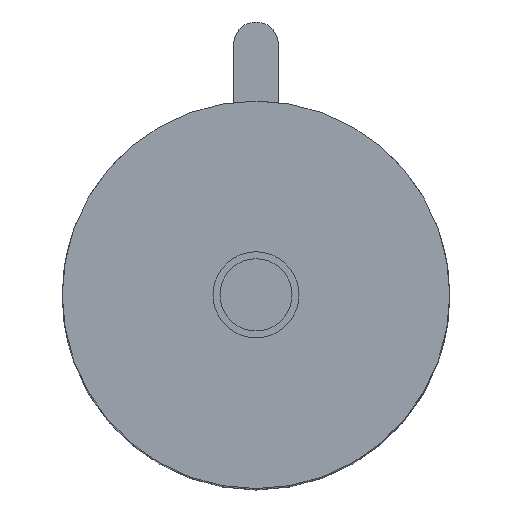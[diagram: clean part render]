
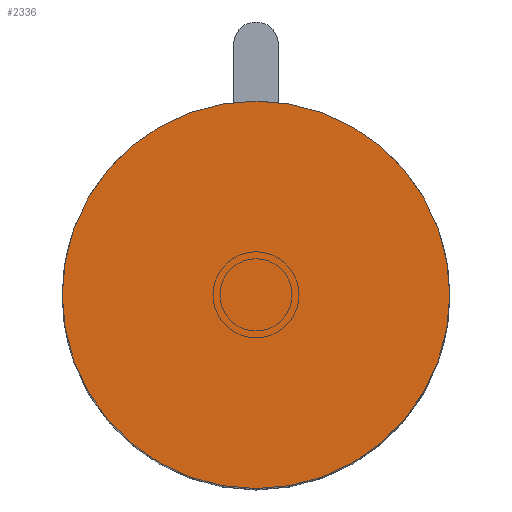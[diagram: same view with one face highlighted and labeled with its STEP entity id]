
A CAD part, top view. The second image highlights one B-rep face of the part: STEP entity #2336.
In plain terms, the highlighted planar face has unit normal (0, 0, 1).
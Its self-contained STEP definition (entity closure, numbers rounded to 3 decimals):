
#310 = ORIENTED_EDGE ( 'NONE', *, *, #312, .F. ) ;
#312 = EDGE_CURVE ( 'NONE', #1258, #1485, #3387, .T. ) ;
#392 = EDGE_CURVE ( 'NONE', #1485, #1258, #1231, .T. ) ;
#474 = DIRECTION ( 'NONE',  ( 1., 0., 0. ) ) ;
#504 = DIRECTION ( 'NONE',  ( 0., 0., -1. ) ) ;
#557 = AXIS2_PLACEMENT_3D ( 'NONE', #589, #504, #474 ) ;
#589 = CARTESIAN_POINT ( 'NONE',  ( 0., 0., 56. ) ) ;
#618 = AXIS2_PLACEMENT_3D ( 'NONE', #2750, #2714, #2617 ) ;
#1231 = CIRCLE ( 'NONE', #557, 27. ) ;
#1258 = VERTEX_POINT ( 'NONE', #2631 ) ;
#1485 = VERTEX_POINT ( 'NONE', #2647 ) ;
#1553 = EDGE_LOOP ( 'NONE', ( #1823, #310 ) ) ;
#1823 = ORIENTED_EDGE ( 'NONE', *, *, #392, .F. ) ;
#2336 = ADVANCED_FACE ( 'NONE', ( #3495 ), #3473, .T. ) ;
#2487 = AXIS2_PLACEMENT_3D ( 'NONE', #3289, #3280, #3278 ) ;
#2617 = DIRECTION ( 'NONE',  ( 1., 0., 0. ) ) ;
#2631 = CARTESIAN_POINT ( 'NONE',  ( -27., 0., 56. ) ) ;
#2647 = CARTESIAN_POINT ( 'NONE',  ( 27., 0., 56. ) ) ;
#2714 = DIRECTION ( 'NONE',  ( 0., 0., -1. ) ) ;
#2750 = CARTESIAN_POINT ( 'NONE',  ( 0., 0., 56. ) ) ;
#3278 = DIRECTION ( 'NONE',  ( 1., 0., 0. ) ) ;
#3280 = DIRECTION ( 'NONE',  ( 0., 0., 1. ) ) ;
#3289 = CARTESIAN_POINT ( 'NONE',  ( 0., 0., 56. ) ) ;
#3387 = CIRCLE ( 'NONE', #618, 27. ) ;
#3473 = PLANE ( 'NONE',  #2487 ) ;
#3495 = FACE_OUTER_BOUND ( 'NONE', #1553, .T. ) ;
